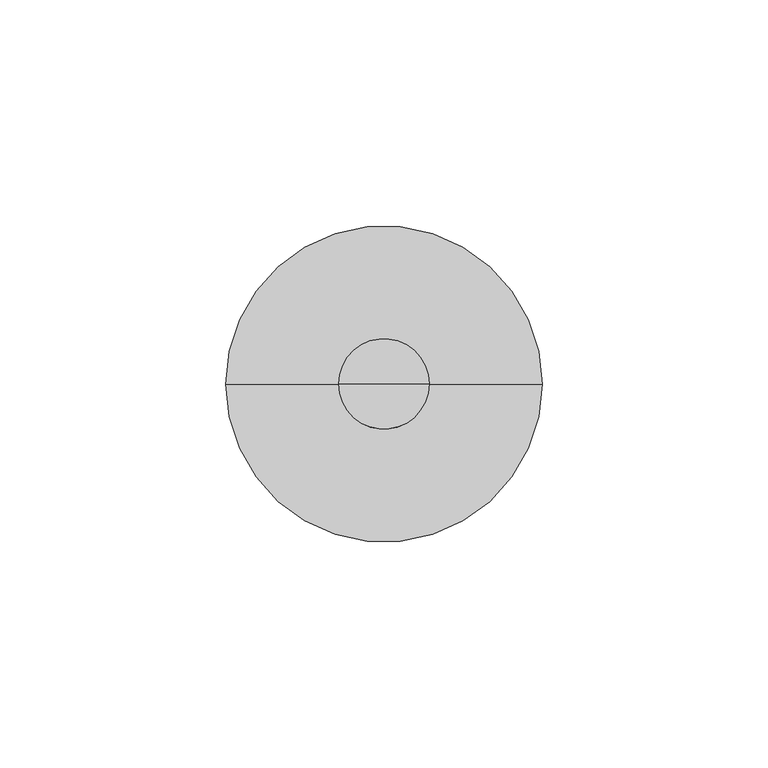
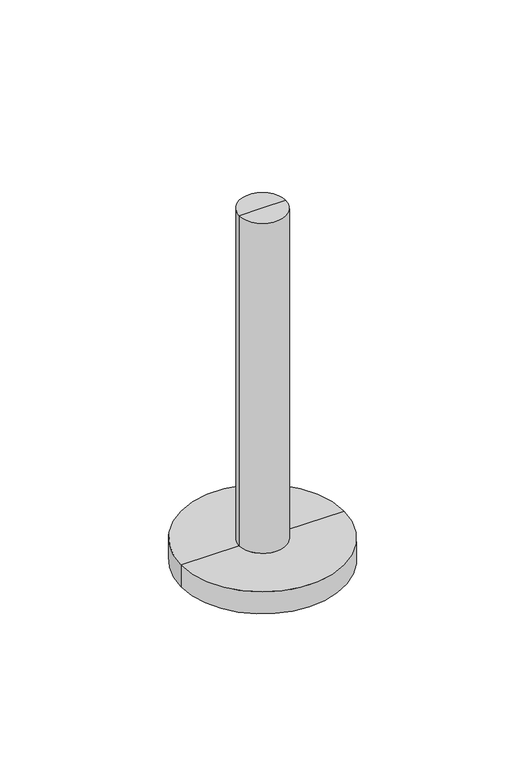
"""IFC4 building model written with IfcOpenShell, lengths in millimetres: proxy geometry, Partition_Zeppelin-Rental-GmbH : Partition_Zeppelin-Rental-GmbH."""

from ifc_helpers import new_model, si_unit, frame, origin, place, context, project, spatial, circle_curve, source, transform, mapped, element, save
from ifc_brep_helpers import plane_surface, cylinder_surface, advanced_brep


def generic_models_80955716(model_context):
    return source(origin(), model_context, "Body", "AdvancedBrep", [
        advanced_brep(
        [(0.0, 0.0, 0.0), (-35.0, 0.0, 0.0), (35.0, 0.0, 0.0), (10.0, 0.0, 160.0), (-10.0, 0.0, 160.0), (0.0, 0.0, 160.0), (10.0, 0.0, 10.0), (-10.0, 0.0, 10.0), (35.0, 0.0, 10.0), (-35.0, 0.0, 10.0)],
        [
            (0, 1),
            (1, 2, circle_curve(frame((0.0, 0.0, 0.0), z_axis=(0.0, 0.0, -1.0), x_axis=(-1.0, 0.0, 0.0)), 35.0)),
            (2, 0),
            (2, 1, circle_curve(frame((0.0, 0.0, 0.0), z_axis=(0.0, 0.0, -1.0), x_axis=(-1.0, 0.0, 0.0)), 35.0)),
            (3, 4, circle_curve(frame((0.0, 0.0, 160.0), z_axis=(0.0, 0.0, 1.0), x_axis=(-1.0, 0.0, 0.0)), 10.0)),
            (4, 5),
            (5, 3),
            (4, 3, circle_curve(frame((0.0, 0.0, 160.0), z_axis=(0.0, 0.0, 1.0), x_axis=(-1.0, 0.0, 0.0)), 10.0)),
            (6, 7, circle_curve(frame((0.0, 0.0, 10.0), z_axis=(0.0, 0.0, 1.0), x_axis=(-1.0, 0.0, 0.0)), 10.0)),
            (7, 4),
            (3, 6),
            (7, 6, circle_curve(frame((0.0, 0.0, 10.0), z_axis=(0.0, 0.0, 1.0), x_axis=(-1.0, 0.0, 0.0)), 10.0)),
            (8, 9, circle_curve(frame((0.0, 0.0, 10.0), z_axis=(0.0, 0.0, 1.0), x_axis=(-1.0, 0.0, 0.0)), 35.0)),
            (9, 7),
            (6, 8),
            (9, 8, circle_curve(frame((0.0, 0.0, 10.0), z_axis=(0.0, 0.0, 1.0), x_axis=(-1.0, 0.0, 0.0)), 35.0)),
            (1, 9),
            (8, 2),
        ],
        [
            plane_surface(frame((0.0, 0.0, 0.0), z_axis=(0.0, 0.0, -1.0), x_axis=(-1.0, 0.0, 0.0))),
            plane_surface(frame((0.0, 0.0, 160.0), z_axis=(0.0, 0.0, 1.0), x_axis=(-1.0, 0.0, 0.0))),
            cylinder_surface(frame((0.0, 0.0, 2214.3150031), z_axis=(0.0, 0.0, -1.0), x_axis=(-1.0, 0.0, 0.0)), 10.0),
            plane_surface(frame((0.0, 0.0, 10.0), z_axis=(0.0, 0.0, 1.0), x_axis=(-1.0, 0.0, 0.0))),
            cylinder_surface(frame((0.0, 0.0, 2214.3150031), z_axis=(0.0, 0.0, -1.0), x_axis=(-1.0, 0.0, 0.0)), 35.0),
        ],
        [
            (0, [[1, 2, 3]]),
            (0, [[-3, 4, -1]]),
            (1, [[5, 6, 7]]),
            (1, [[8, -7, -6]]),
            (2, [[9, 10, -5, 11]]),
            (2, [[12, -11, -8, -10]]),
            (3, [[13, 14, -9, 15]]),
            (3, [[16, -15, -12, -14]]),
            (4, [[-2, 17, -13, 18]]),
            (4, [[-4, -18, -16, -17]]),
        ],
    ),
    ])


if __name__ == "__main__":
    model = new_model("IFC4")
    model_context = context("Model", 3, world=origin())
    ifc_project = project(units=[si_unit("LENGTHUNIT", "METRE", prefix="MILLI")], contexts=[model_context])
    site = spatial("IfcSite", under=ifc_project)
    building = spatial("IfcBuilding", under=site)
    placement = place(None, origin())
    generic_models_shape = generic_models_80955716(model_context)
    element("IfcBuildingElementProxy", 1, Name="Partition_Zeppelin-Rental-GmbH : Partition_Zeppelin-Rental-GmbH", ObjectType="Partition_Zeppelin-Rental-GmbH : Partition_Zeppelin-Rental-GmbH", at=placement, inside=building, context=model_context, shape_type="MappedRepresentation", body=[
        mapped(generic_models_shape, transform((0.0, 0.0, 0.0), x_axis=(1.0, 0.0, 0.0), y_axis=(0.0, 1.0, 0.0), z_axis=(0.0, 0.0, 1.0))),
    ])
    save(model, "model.ifc")
